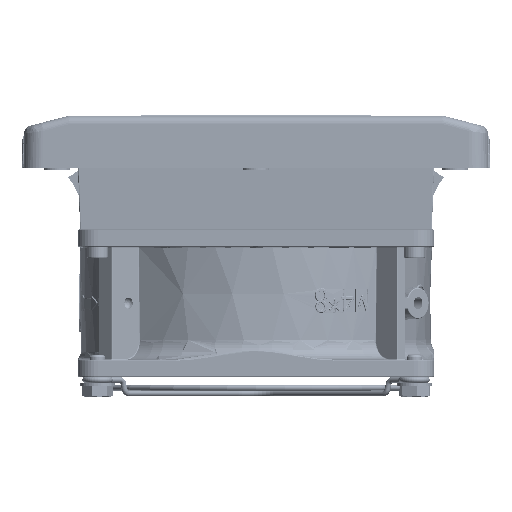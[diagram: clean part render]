
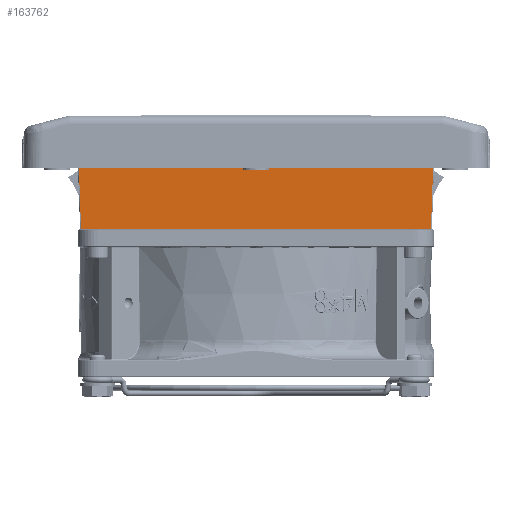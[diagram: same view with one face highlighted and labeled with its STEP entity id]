
A CAD part, front view. The second image highlights one B-rep face of the part: STEP entity #163762.
In plain terms, the highlighted planar face has unit normal (0, -0.999, -0.035).
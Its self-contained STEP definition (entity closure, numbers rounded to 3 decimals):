
#8990=PLANE('',#174320);
#25628=FACE_OUTER_BOUND('',#36067,.T.);
#36067=EDGE_LOOP('',(#140020,#140021,#140022,#140023));
#46418=LINE('',#319114,#58111);
#46607=LINE('',#319822,#58300);
#46608=LINE('',#319826,#58301);
#46609=LINE('',#319827,#58302);
#58111=VECTOR('',#199468,10.);
#58300=VECTOR('',#199729,10.);
#58301=VECTOR('',#199734,10.);
#58302=VECTOR('',#199735,10.);
#77980=VERTEX_POINT('',#319110);
#77981=VERTEX_POINT('',#319112);
#78168=VERTEX_POINT('',#319821);
#78169=VERTEX_POINT('',#319825);
#99263=EDGE_CURVE('',#77981,#77980,#46418,.T.);
#99483=EDGE_CURVE('',#77980,#78168,#46607,.T.);
#99485=EDGE_CURVE('',#78169,#77981,#46608,.T.);
#99486=EDGE_CURVE('',#78168,#78169,#46609,.T.);
#140020=ORIENTED_EDGE('',*,*,#99263,.F.);
#140021=ORIENTED_EDGE('',*,*,#99485,.F.);
#140022=ORIENTED_EDGE('',*,*,#99486,.F.);
#140023=ORIENTED_EDGE('',*,*,#99483,.F.);
#163762=ADVANCED_FACE('',(#25628),#8990,.T.);
#174320=AXIS2_PLACEMENT_3D('',#319824,#199732,#199733);
#199468=DIRECTION('',(-1.,0.,0.));
#199729=DIRECTION('',(-0.035,-0.035,0.999));
#199732=DIRECTION('center_axis',(0.,-0.999,-0.035));
#199733=DIRECTION('ref_axis',(-1.,0.,0.));
#199734=DIRECTION('',(-0.035,0.035,-0.999));
#199735=DIRECTION('',(1.,0.,0.));
#319110=CARTESIAN_POINT('',(-45.536,-45.786,-18.759));
#319112=CARTESIAN_POINT('',(45.536,-45.786,-18.759));
#319114=CARTESIAN_POINT('',(-23.175,-45.786,-18.759));
#319821=CARTESIAN_POINT('',(-46.1,-46.35,-2.6));
#319822=CARTESIAN_POINT('',(-46.044,-46.294,-4.206));
#319824=CARTESIAN_POINT('Origin',(-46.35,-46.35,-2.6));
#319825=CARTESIAN_POINT('',(46.1,-46.35,-2.6));
#319826=CARTESIAN_POINT('',(46.044,-46.294,-4.206));
#319827=CARTESIAN_POINT('',(-23.175,-46.35,-2.6));
